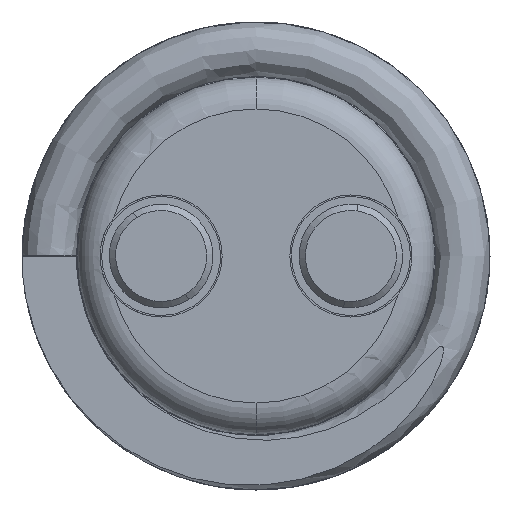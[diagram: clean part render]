
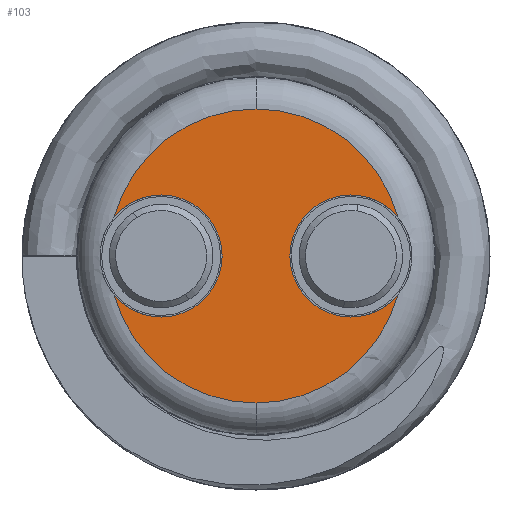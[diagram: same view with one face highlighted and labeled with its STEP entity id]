
A CAD part, front view. The second image highlights one B-rep face of the part: STEP entity #103.
In plain terms, the highlighted planar face has unit normal (0, -1, 0).
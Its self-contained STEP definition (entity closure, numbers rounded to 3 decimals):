
#103 = ADVANCED_FACE ( 'NONE', ( #1325 ), #5746, .F. ) ;
#153 = VERTEX_POINT ( 'NONE', #6313 ) ;
#170 = VERTEX_POINT ( 'NONE', #6330 ) ;
#173 = VERTEX_POINT ( 'NONE', #6333 ) ;
#177 = VERTEX_POINT ( 'NONE', #6337 ) ;
#197 = CARTESIAN_POINT ( 'NONE',  ( -3.81, -9.144, -2.451 ) ) ;
#215 = CARTESIAN_POINT ( 'NONE',  ( 5.693, -9.144, -1.569 ) ) ;
#221 = CARTESIAN_POINT ( 'NONE',  ( 0., -9.144, -5.905 ) ) ;
#771 = CARTESIAN_POINT ( 'NONE',  ( 3.81, -9.144, 0. ) ) ;
#783 = DIRECTION ( 'NONE',  ( 0., -1., 0. ) ) ;
#784 = DIRECTION ( 'NONE',  ( 0., 0., 1. ) ) ;
#830 = CARTESIAN_POINT ( 'NONE',  ( -3.81, -9.144, 0. ) ) ;
#837 = DIRECTION ( 'NONE',  ( 0., -1., 0. ) ) ;
#838 = DIRECTION ( 'NONE',  ( 0., 0., -1. ) ) ;
#990 = ORIENTED_EDGE ( 'NONE', *, *, #4857, .F. ) ;
#991 = ORIENTED_EDGE ( 'NONE', *, *, #2891, .T. ) ;
#992 = ORIENTED_EDGE ( 'NONE', *, *, #4790, .T. ) ;
#993 = ORIENTED_EDGE ( 'NONE', *, *, #4861, .F. ) ;
#994 = ORIENTED_EDGE ( 'NONE', *, *, #2793, .F. ) ;
#995 = ORIENTED_EDGE ( 'NONE', *, *, #4910, .F. ) ;
#996 = ORIENTED_EDGE ( 'NONE', *, *, #2827, .T. ) ;
#997 = ORIENTED_EDGE ( 'NONE', *, *, #4776, .T. ) ;
#998 = ORIENTED_EDGE ( 'NONE', *, *, #2811, .F. ) ;
#999 = ORIENTED_EDGE ( 'NONE', *, *, #4803, .F. ) ;
#1325 = FACE_OUTER_BOUND ( 'NONE', #4568, .T. ) ;
#1631 = CIRCLE ( 'NONE', #4903, 2.451 ) ;
#1651 = CIRCLE ( 'NONE', #4878, 2.451 ) ;
#1668 = CIRCLE ( 'NONE', #3300, 5.905 ) ;
#1743 = CIRCLE ( 'NONE', #3418, 5.905 ) ;
#1786 = CIRCLE ( 'NONE', #3385, 5.905 ) ;
#1807 = CIRCLE ( 'NONE', #3297, 5.905 ) ;
#1822 = CIRCLE ( 'NONE', #3313, 2.451 ) ;
#1859 = CIRCLE ( 'NONE', #3383, 2.451 ) ;
#1861 = CIRCLE ( 'NONE', #3277, 2.451 ) ;
#1866 = CIRCLE ( 'NONE', #3275, 2.451 ) ;
#2125 = VERTEX_POINT ( 'NONE', #6412 ) ;
#2141 = VERTEX_POINT ( 'NONE', #6428 ) ;
#2172 = VERTEX_POINT ( 'NONE', #197 ) ;
#2497 = VERTEX_POINT ( 'NONE', #221 ) ;
#2498 = VERTEX_POINT ( 'NONE', #215 ) ;
#2793 = EDGE_CURVE ( 'NONE', #2125, #2141, #1631, .T. ) ;
#2811 = EDGE_CURVE ( 'NONE', #170, #173, #1651, .T. ) ;
#2827 = EDGE_CURVE ( 'NONE', #177, #6463, #1668, .T. ) ;
#2891 = EDGE_CURVE ( 'NONE', #153, #2497, #1743, .T. ) ;
#3275 = AXIS2_PLACEMENT_3D ( 'NONE', #3648, #3656, #3657 ) ;
#3277 = AXIS2_PLACEMENT_3D ( 'NONE', #3625, #3626, #3627 ) ;
#3297 = AXIS2_PLACEMENT_3D ( 'NONE', #4452, #4453, #4454 ) ;
#3300 = AXIS2_PLACEMENT_3D ( 'NONE', #3893, #3901, #3902 ) ;
#3313 = AXIS2_PLACEMENT_3D ( 'NONE', #4475, #4496, #4497 ) ;
#3383 = AXIS2_PLACEMENT_3D ( 'NONE', #3598, #3600, #3601 ) ;
#3385 = AXIS2_PLACEMENT_3D ( 'NONE', #4400, #4401, #4402 ) ;
#3418 = AXIS2_PLACEMENT_3D ( 'NONE', #4162, #4165, #4166 ) ;
#3598 = CARTESIAN_POINT ( 'NONE',  ( -3.81, -9.144, 0. ) ) ;
#3600 = DIRECTION ( 'NONE',  ( 0., -1., 0. ) ) ;
#3601 = DIRECTION ( 'NONE',  ( 0., 0., -1. ) ) ;
#3625 = CARTESIAN_POINT ( 'NONE',  ( 3.81, -9.144, 0. ) ) ;
#3626 = DIRECTION ( 'NONE',  ( 0., -1., 0. ) ) ;
#3627 = DIRECTION ( 'NONE',  ( 0., 0., 1. ) ) ;
#3648 = CARTESIAN_POINT ( 'NONE',  ( 3.81, -9.144, 0. ) ) ;
#3656 = DIRECTION ( 'NONE',  ( 0., -1., 0. ) ) ;
#3657 = DIRECTION ( 'NONE',  ( 0., 0., 1. ) ) ;
#3662 = CARTESIAN_POINT ( 'NONE',  ( 0., -9.144, 5.905 ) ) ;
#3893 = CARTESIAN_POINT ( 'NONE',  ( 0., -9.144, 0. ) ) ;
#3901 = DIRECTION ( 'NONE',  ( 0., -1., 0. ) ) ;
#3902 = DIRECTION ( 'NONE',  ( 0., 0., 1. ) ) ;
#4162 = CARTESIAN_POINT ( 'NONE',  ( 0., -9.144, 0. ) ) ;
#4165 = DIRECTION ( 'NONE',  ( 0., -1., 0. ) ) ;
#4166 = DIRECTION ( 'NONE',  ( 0., 0., 1. ) ) ;
#4400 = CARTESIAN_POINT ( 'NONE',  ( 0., -9.144, 0. ) ) ;
#4401 = DIRECTION ( 'NONE',  ( 0., -1., 0. ) ) ;
#4402 = DIRECTION ( 'NONE',  ( 0., 0., 1. ) ) ;
#4452 = CARTESIAN_POINT ( 'NONE',  ( 0., -9.144, 0. ) ) ;
#4453 = DIRECTION ( 'NONE',  ( 0., -1., 0. ) ) ;
#4454 = DIRECTION ( 'NONE',  ( 0., 0., 1. ) ) ;
#4475 = CARTESIAN_POINT ( 'NONE',  ( -3.81, -9.144, 0. ) ) ;
#4496 = DIRECTION ( 'NONE',  ( 0., -1., 0. ) ) ;
#4497 = DIRECTION ( 'NONE',  ( 0., 0., -1. ) ) ;
#4568 = EDGE_LOOP ( 'NONE', ( #990, #991, #992, #993, #994, #995, #996, #997, #998, #999 ) ) ;
#4675 = AXIS2_PLACEMENT_3D ( 'NONE', #5744, #5749, #5750 ) ;
#4776 = EDGE_CURVE ( 'NONE', #6463, #173, #1786, .T. ) ;
#4790 = EDGE_CURVE ( 'NONE', #2497, #2498, #1807, .T. ) ;
#4803 = EDGE_CURVE ( 'NONE', #2172, #170, #1822, .T. ) ;
#4857 = EDGE_CURVE ( 'NONE', #153, #2172, #1859, .T. ) ;
#4861 = EDGE_CURVE ( 'NONE', #2141, #2498, #1861, .T. ) ;
#4878 = AXIS2_PLACEMENT_3D ( 'NONE', #830, #837, #838 ) ;
#4903 = AXIS2_PLACEMENT_3D ( 'NONE', #771, #783, #784 ) ;
#4910 = EDGE_CURVE ( 'NONE', #177, #2125, #1866, .T. ) ;
#5744 = CARTESIAN_POINT ( 'NONE',  ( 0., -9.144, 0. ) ) ;
#5746 = PLANE ( 'NONE',  #4675 ) ;
#5749 = DIRECTION ( 'NONE',  ( 0., 1., 0. ) ) ;
#5750 = DIRECTION ( 'NONE',  ( 0., 0., 1. ) ) ;
#6313 = CARTESIAN_POINT ( 'NONE',  ( -5.693, -9.144, -1.569 ) ) ;
#6330 = CARTESIAN_POINT ( 'NONE',  ( -3.81, -9.144, 2.451 ) ) ;
#6333 = CARTESIAN_POINT ( 'NONE',  ( -5.693, -9.144, 1.569 ) ) ;
#6337 = CARTESIAN_POINT ( 'NONE',  ( 5.693, -9.144, 1.569 ) ) ;
#6412 = CARTESIAN_POINT ( 'NONE',  ( 3.81, -9.144, 2.451 ) ) ;
#6428 = CARTESIAN_POINT ( 'NONE',  ( 3.81, -9.144, -2.451 ) ) ;
#6463 = VERTEX_POINT ( 'NONE', #3662 ) ;
